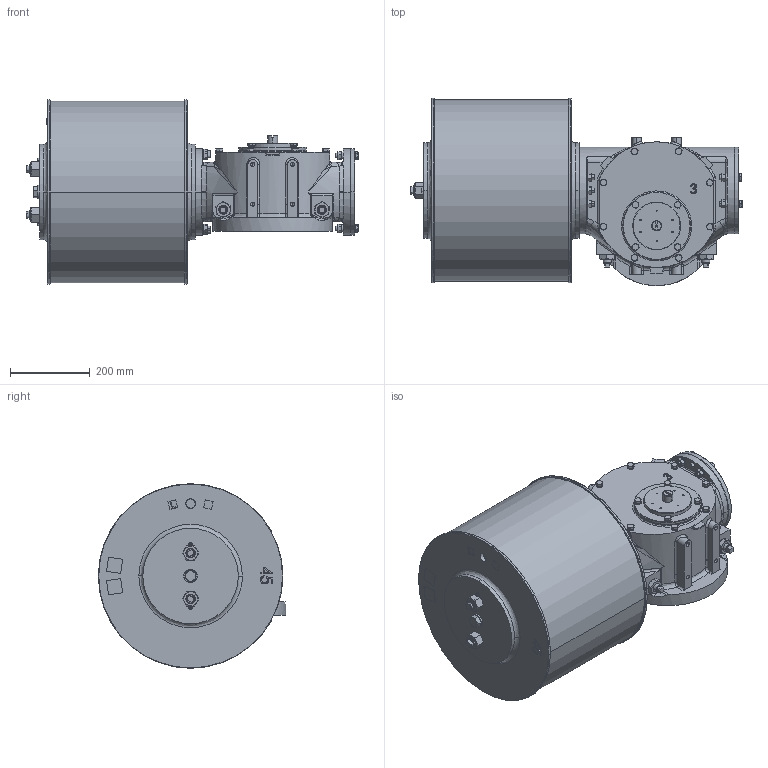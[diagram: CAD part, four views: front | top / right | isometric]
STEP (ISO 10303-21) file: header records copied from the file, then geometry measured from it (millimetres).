
FILE_DESCRIPTION (( 'STEP AP203' ), '1' );
FILE_NAME ('VTS3-450.STEP', '2023-01-01T09:10:28', ( '' ), ( '' ), 'SwSTEP 2.0', 'SolidWorks 2020', '' );
FILE_SCHEMA (( 'CONFIG_CONTROL_DESIGN' ));
Length unit declared in the file: millimetre
Products named in the file (1): VTS3-450
Bounding box: 834.68 x 471 x 464 mm (x, y, z)
Volume: 78846660.3 mm3; surface area: 1670561.6 mm2
Topology: 15 solids, 18 shells, 1712 faces, 4392 edges, 2784 vertices
Faces by surface type: plane 711, cylinder 478, cone 382, bspline 141
Entity records: 67118 total; most frequent: CARTESIAN_POINT 26951, ORIENTED_EDGE 8682, DIRECTION 8040, EDGE_CURVE 4341, AXIS2_PLACEMENT_3D 3145, VERTEX_POINT 2784, EDGE_LOOP 1899, LINE 1750
